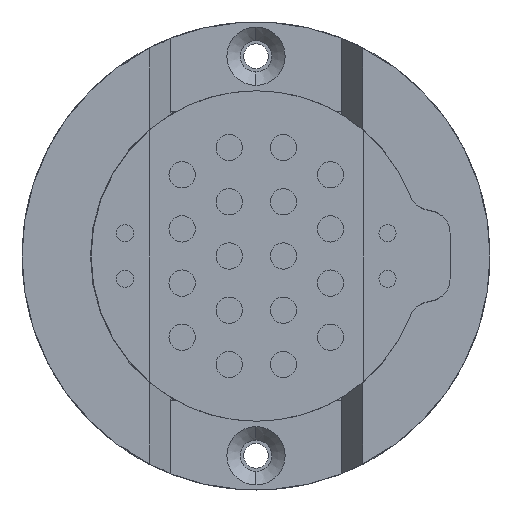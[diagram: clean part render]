
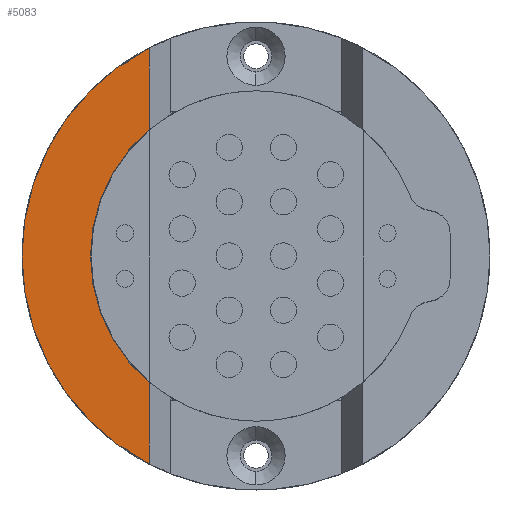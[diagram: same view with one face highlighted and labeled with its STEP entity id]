
A CAD part, left-side view. The second image highlights one B-rep face of the part: STEP entity #5083.
In plain terms, the highlighted planar face has unit normal (-1, 0, 0).
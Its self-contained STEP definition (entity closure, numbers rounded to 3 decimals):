
#25 = PLANE ( 'NONE',  #9983 ) ;
#150 = LINE ( 'NONE', #7607, #1638 ) ;
#256 = EDGE_CURVE ( 'NONE', #8713, #2173, #150, .T. ) ;
#637 = CARTESIAN_POINT ( 'NONE',  ( -23.2, 9.384, 0. ) ) ;
#755 = DIRECTION ( 'NONE',  ( 1., 0., 0. ) ) ;
#810 = VERTEX_POINT ( 'NONE', #2448 ) ;
#908 = AXIS2_PLACEMENT_3D ( 'NONE', #1120, #9532, #6825 ) ;
#1108 = ORIENTED_EDGE ( 'NONE', *, *, #6167, .T. ) ;
#1120 = CARTESIAN_POINT ( 'NONE',  ( -23.2, 0.024, 0. ) ) ;
#1192 = ORIENTED_EDGE ( 'NONE', *, *, #256, .T. ) ;
#1418 = CARTESIAN_POINT ( 'NONE',  ( -23.2, 9.384, 18.238 ) ) ;
#1638 = VECTOR ( 'NONE', #5144, 1000. ) ;
#1917 = DIRECTION ( 'NONE',  ( 0., -0.366, 0.931 ) ) ;
#2016 = AXIS2_PLACEMENT_3D ( 'NONE', #8234, #6402, #3102 ) ;
#2173 = VERTEX_POINT ( 'NONE', #6280 ) ;
#2448 = CARTESIAN_POINT ( 'NONE',  ( -23.2, 9.384, 11.074 ) ) ;
#2561 = DIRECTION ( 'NONE',  ( 0., -1., 0. ) ) ;
#2853 = CARTESIAN_POINT ( 'NONE',  ( -23.2, 0.024, 0. ) ) ;
#3102 = DIRECTION ( 'NONE',  ( 0., -0.366, 0.931 ) ) ;
#3172 = CARTESIAN_POINT ( 'NONE',  ( -23.2, 20.524, 0. ) ) ;
#3593 = VERTEX_POINT ( 'NONE', #1418 ) ;
#3824 = EDGE_LOOP ( 'NONE', ( #1192, #8397, #6667, #8963, #9893, #1108 ) ) ;
#4116 = EDGE_CURVE ( 'NONE', #810, #3593, #5621, .T. ) ;
#4246 = FACE_OUTER_BOUND ( 'NONE', #3824, .T. ) ;
#5083 = ADVANCED_FACE ( 'NONE', ( #4246 ), #25, .T. ) ;
#5144 = DIRECTION ( 'NONE',  ( 0., 0., 1. ) ) ;
#5195 = AXIS2_PLACEMENT_3D ( 'NONE', #5708, #755, #9897 ) ;
#5621 = LINE ( 'NONE', #637, #9987 ) ;
#5682 = AXIS2_PLACEMENT_3D ( 'NONE', #2853, #6100, #1917 ) ;
#5708 = CARTESIAN_POINT ( 'NONE',  ( -23.2, 0.024, 0. ) ) ;
#5902 = CARTESIAN_POINT ( 'NONE',  ( -23.2, 6.524, 0. ) ) ;
#6100 = DIRECTION ( 'NONE',  ( -1., 0., 0. ) ) ;
#6167 = EDGE_CURVE ( 'NONE', #6705, #8713, #8832, .T. ) ;
#6280 = CARTESIAN_POINT ( 'NONE',  ( -23.2, 9.384, -11.074 ) ) ;
#6402 = DIRECTION ( 'NONE',  ( -1., 0., 0. ) ) ;
#6461 = CARTESIAN_POINT ( 'NONE',  ( -23.2, 14.524, 0. ) ) ;
#6592 = CIRCLE ( 'NONE', #2016, 20.5 ) ;
#6667 = ORIENTED_EDGE ( 'NONE', *, *, #8064, .T. ) ;
#6705 = VERTEX_POINT ( 'NONE', #3172 ) ;
#6822 = CARTESIAN_POINT ( 'NONE',  ( -23.2, 9.384, -18.238 ) ) ;
#6825 = DIRECTION ( 'NONE',  ( 0., -0.517, 0.856 ) ) ;
#7000 = EDGE_CURVE ( 'NONE', #3593, #6705, #6592, .T. ) ;
#7607 = CARTESIAN_POINT ( 'NONE',  ( -23.2, 9.384, 0. ) ) ;
#8064 = EDGE_CURVE ( 'NONE', #10508, #810, #10764, .T. ) ;
#8234 = CARTESIAN_POINT ( 'NONE',  ( -23.2, 0.024, 0. ) ) ;
#8242 = DIRECTION ( 'NONE',  ( -1., 0., 0. ) ) ;
#8397 = ORIENTED_EDGE ( 'NONE', *, *, #9402, .T. ) ;
#8713 = VERTEX_POINT ( 'NONE', #6822 ) ;
#8832 = CIRCLE ( 'NONE', #5682, 20.5 ) ;
#8963 = ORIENTED_EDGE ( 'NONE', *, *, #4116, .T. ) ;
#9055 = CIRCLE ( 'NONE', #5195, 14.5 ) ;
#9402 = EDGE_CURVE ( 'NONE', #2173, #10508, #9055, .T. ) ;
#9532 = DIRECTION ( 'NONE',  ( 1., 0., 0. ) ) ;
#9893 = ORIENTED_EDGE ( 'NONE', *, *, #7000, .T. ) ;
#9897 = DIRECTION ( 'NONE',  ( 0., -0.517, 0.856 ) ) ;
#9983 = AXIS2_PLACEMENT_3D ( 'NONE', #5902, #8242, #2561 ) ;
#9987 = VECTOR ( 'NONE', #10541, 1000. ) ;
#10508 = VERTEX_POINT ( 'NONE', #6461 ) ;
#10541 = DIRECTION ( 'NONE',  ( 0., 0., 1. ) ) ;
#10764 = CIRCLE ( 'NONE', #908, 14.5 ) ;
